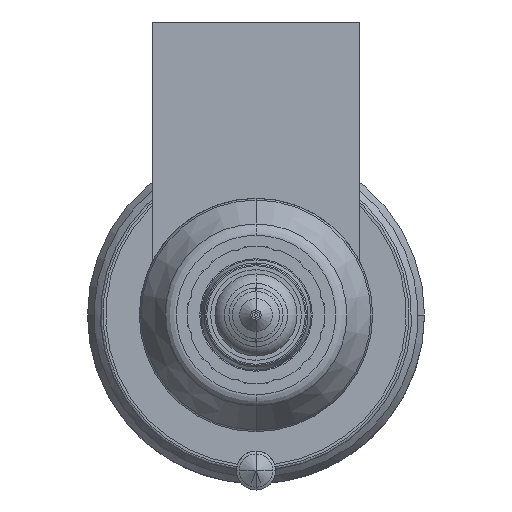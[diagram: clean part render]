
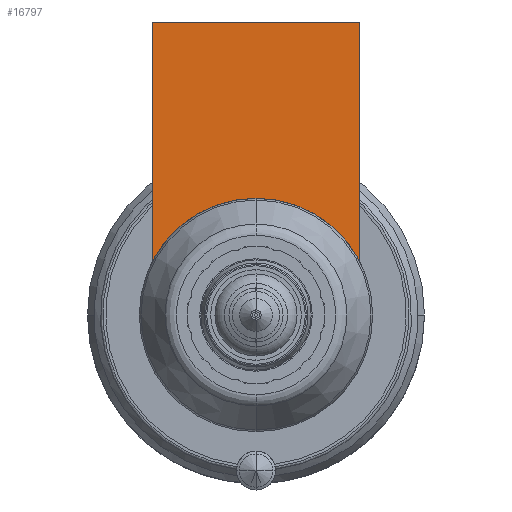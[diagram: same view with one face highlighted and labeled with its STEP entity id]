
A CAD part, front view. The second image highlights one B-rep face of the part: STEP entity #16797.
In plain terms, the highlighted planar face has unit normal (0, -1, 0).
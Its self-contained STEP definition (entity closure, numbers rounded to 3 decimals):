
#15383=DIRECTION('',(0.,0.,-1.));
#15384=VECTOR('',#15383,18.481);
#15385=CARTESIAN_POINT('',(-8.,-54.,22.604));
#15386=LINE('',#15385,#15384);
#15979=CARTESIAN_POINT('',(0.,-54.,0.));
#15980=DIRECTION('',(0.,-1.,0.));
#15981=DIRECTION('',(0.,0.,1.));
#15982=AXIS2_PLACEMENT_3D('',#15979,#15980,#15981);
#15987=DIRECTION('',(1.,0.,0.));
#15988=VECTOR('',#15987,16.);
#15989=CARTESIAN_POINT('',(-8.,-54.,22.604));
#15990=LINE('',#15989,#15988);
#15994=CARTESIAN_POINT('',(0.,-54.,0.));
#15995=DIRECTION('',(0.,-1.,0.));
#15996=DIRECTION('',(0.889,0.,0.458));
#15997=AXIS2_PLACEMENT_3D('',#15994,#15995,#15996);
#16078=DIRECTION('',(0.,0.,-1.));
#16079=VECTOR('',#16078,18.481);
#16080=CARTESIAN_POINT('',(8.,-54.,22.604));
#16081=LINE('',#16080,#16079);
#16183=CARTESIAN_POINT('',(-8.,-54.,22.604));
#16184=VERTEX_POINT('',#16183);
#16189=CARTESIAN_POINT('',(8.,-54.,22.604));
#16190=VERTEX_POINT('',#16189);
#16192=CARTESIAN_POINT('',(-8.,-54.,4.123));
#16194=VERTEX_POINT('',#16192);
#16196=CARTESIAN_POINT('',(8.,-54.,4.123));
#16198=VERTEX_POINT('',#16196);
#16199=CARTESIAN_POINT('',(0.,-54.,9.));
#16200=VERTEX_POINT('',#16199);
#16783=CARTESIAN_POINT('',(-8.,-54.,22.604));
#16784=DIRECTION('',(0.,-1.,0.));
#16785=DIRECTION('',(0.,0.,-1.));
#16786=AXIS2_PLACEMENT_3D('',#16783,#16784,#16785);
#16787=PLANE('',#16786);
#16788=ORIENTED_EDGE('',*,*,#16240,.T.);
#16789=ORIENTED_EDGE('',*,*,#16223,.F.);
#16791=ORIENTED_EDGE('',*,*,#16790,.T.);
#16793=ORIENTED_EDGE('',*,*,#16792,.T.);
#16794=ORIENTED_EDGE('',*,*,#16288,.T.);
#16795=EDGE_LOOP('',(#16788,#16789,#16791,#16793,#16794));
#16796=FACE_OUTER_BOUND('',#16795,.F.);
#16797=ADVANCED_FACE('',(#16796),#16787,.T.);
#15983=CIRCLE('',#15982,9.);
#15998=CIRCLE('',#15997,9.);
#16223=EDGE_CURVE('',#16184,#16194,#15386,.T.);
#16240=EDGE_CURVE('',#16200,#16194,#15983,.T.);
#16288=EDGE_CURVE('',#16198,#16200,#15998,.T.);
#16790=EDGE_CURVE('',#16184,#16190,#15990,.T.);
#16792=EDGE_CURVE('',#16190,#16198,#16081,.T.);
